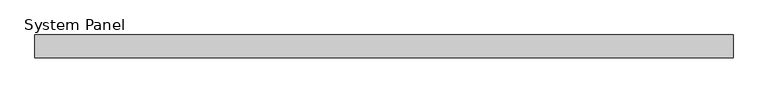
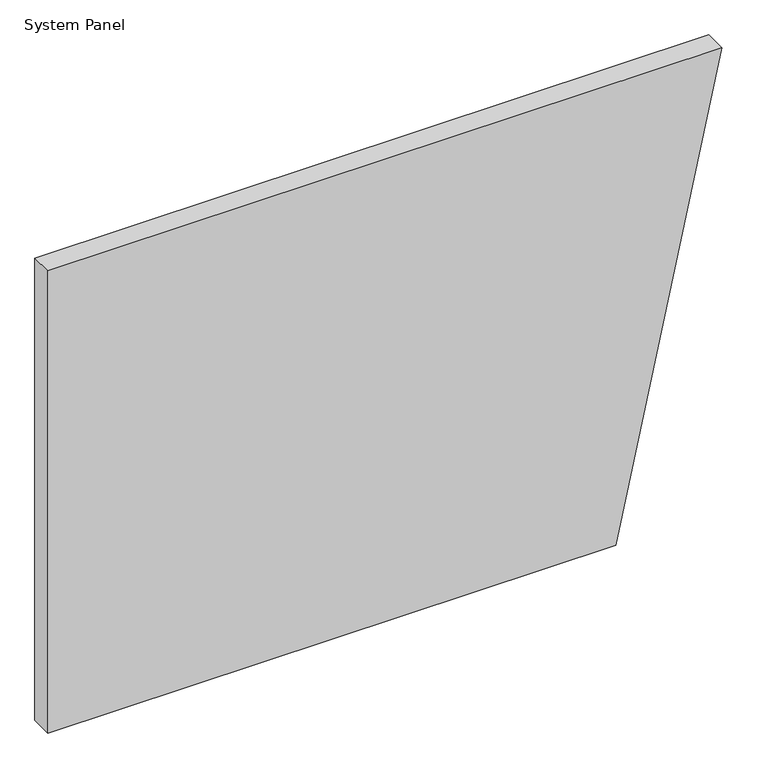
"""IFC4 building model written with IfcOpenShell, lengths in millimetres: plate geometry, System Panel : Inspire 50mm Horizontal - Plain RHEA-PIR."""

from ifc_helpers import new_model, si_unit, frame, origin, place, context, project, spatial, polyline, outline, extrude, source, transform, mapped, element, save


def system_panel_64f5c2a7(model_context):
    return source(origin(), model_context, "Body", "SweptSolid", [
        extrude(outline(polyline([(0.0, -758.698535), (0.0, 519.5661783), (1100.0, 758.698535), (1100.0, -758.698535), (0.0, -758.698535)])), frame((0.0, -50.0, 0.0), z_axis=(0.0, 1.0, 0.0), x_axis=(0.0, 0.0, 1.0)), (0.0, 0.0, 1.0), 50.0),
    ])


if __name__ == "__main__":
    model = new_model("IFC4")
    model_context = context("Model", 3, world=origin())
    ifc_project = project(units=[si_unit("LENGTHUNIT", "METRE", prefix="MILLI")], contexts=[model_context])
    site = spatial("IfcSite", under=ifc_project)
    building = spatial("IfcBuilding", under=site)
    placement = place(None, origin())
    system_panel_shape = system_panel_64f5c2a7(model_context)
    element("IfcPlate", 1, ObjectType="System Panel : Inspire 50mm Horizontal - Plain RHEA-PIR", at=placement, inside=building, context=model_context, shape_type="MappedRepresentation", body=[
        mapped(system_panel_shape, transform((0.0, 0.0, 0.0), x_axis=(1.0, 0.0, 0.0), y_axis=(0.0, 1.0, 0.0), z_axis=(0.0, 0.0, 1.0))),
    ])
    save(model, "model.ifc")
